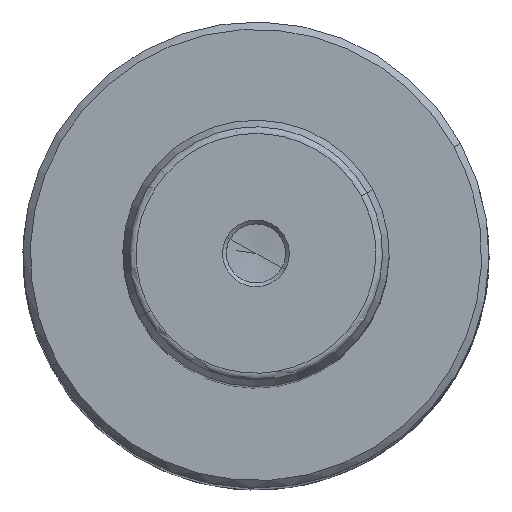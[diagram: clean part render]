
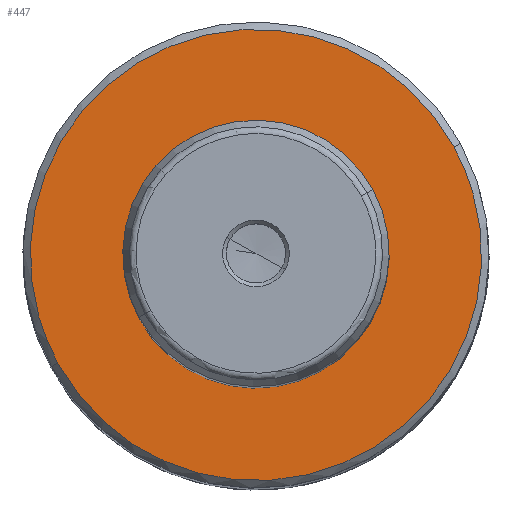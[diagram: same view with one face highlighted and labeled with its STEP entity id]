
A CAD part, top view. The second image highlights one B-rep face of the part: STEP entity #447.
In plain terms, the highlighted planar face has unit normal (0, 0, 1).
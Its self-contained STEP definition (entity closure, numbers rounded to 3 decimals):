
#402 = VERTEX_POINT('',#403);
#403 = CARTESIAN_POINT('',(15.796,8.63,168.));
#411 = VERTEX_POINT('',#412);
#412 = CARTESIAN_POINT('',(-15.796,-8.63,168.));
#418 = EDGE_CURVE('',#411,#402,#419,.T.);
#419 = CIRCLE('',#420,18.);
#420 = AXIS2_PLACEMENT_3D('',#421,#422,#423);
#421 = CARTESIAN_POINT('',(0.,0.,168.));
#422 = DIRECTION('',(0.,0.,1.));
#423 = DIRECTION('',(1.,0.,0.));
#436 = EDGE_CURVE('',#402,#411,#437,.T.);
#437 = CIRCLE('',#438,18.);
#438 = AXIS2_PLACEMENT_3D('',#439,#440,#441);
#439 = CARTESIAN_POINT('',(0.,0.,168.));
#440 = DIRECTION('',(0.,0.,1.));
#441 = DIRECTION('',(1.,0.,0.));
#447 = ADVANCED_FACE('',(#448,#508),#512,.T.);
#448 = FACE_BOUND('',#449,.T.);
#449 = EDGE_LOOP('',(#450,#481));
#450 = ORIENTED_EDGE('',*,*,#451,.T.);
#451 = EDGE_CURVE('',#452,#454,#456,.T.);
#452 = VERTEX_POINT('',#453);
#453 = CARTESIAN_POINT('',(-26.766,-14.622,168.));
#454 = VERTEX_POINT('',#455);
#455 = CARTESIAN_POINT('',(26.766,14.622,168.));
#456 = B_SPLINE_CURVE_WITH_KNOTS('',5,(#457,#458,#459,#460,#461,#462,
    #463,#464,#465,#466,#467,#468,#469,#470,#471,#472,#473,#474,#475,
    #476,#477,#478,#479,#480),.UNSPECIFIED.,.F.,.F.,(6,3,3,3,3,3,3,6),(
    0.,21.044,42.088,63.132,84.176,
    105.22,126.264,135.507),.UNSPECIFIED.);
#457 = CARTESIAN_POINT('',(-26.766,-14.622,168.));
#458 = CARTESIAN_POINT('',(-25.339,-17.234,168.));
#459 = CARTESIAN_POINT('',(-23.594,-19.672,168.));
#460 = CARTESIAN_POINT('',(-21.558,-21.884,168.));
#461 = CARTESIAN_POINT('',(-16.989,-25.766,168.));
#462 = CARTESIAN_POINT('',(-11.62,-28.437,168.));
#463 = CARTESIAN_POINT('',(-8.785,-29.436,168.));
#464 = CARTESIAN_POINT('',(-2.928,-30.724,168.));
#465 = CARTESIAN_POINT('',(3.066,-30.566,168.));
#466 = CARTESIAN_POINT('',(6.039,-30.12,168.));
#467 = CARTESIAN_POINT('',(11.815,-28.512,168.));
#468 = CARTESIAN_POINT('',(17.036,-25.562,168.));
#469 = CARTESIAN_POINT('',(19.453,-23.775,168.));
#470 = CARTESIAN_POINT('',(23.802,-19.647,168.));
#471 = CARTESIAN_POINT('',(27.031,-14.594,168.));
#472 = CARTESIAN_POINT('',(28.328,-11.882,168.));
#473 = CARTESIAN_POINT('',(30.234,-6.197,168.));
#474 = CARTESIAN_POINT('',(30.718,-0.22,168.));
#475 = CARTESIAN_POINT('',(30.593,2.783,168.));
#476 = CARTESIAN_POINT('',(29.887,7.04,168.));
#477 = CARTESIAN_POINT('',(28.459,11.085,168.));
#478 = CARTESIAN_POINT('',(27.958,12.295,168.));
#479 = CARTESIAN_POINT('',(27.393,13.475,168.));
#480 = CARTESIAN_POINT('',(26.766,14.622,168.));
#481 = ORIENTED_EDGE('',*,*,#482,.T.);
#482 = EDGE_CURVE('',#454,#452,#483,.T.);
#483 = B_SPLINE_CURVE_WITH_KNOTS('',5,(#484,#485,#486,#487,#488,#489,
    #490,#491,#492,#493,#494,#495,#496,#497,#498,#499,#500,#501,#502,
    #503,#504,#505,#506,#507),.UNSPECIFIED.,.F.,.F.,(6,3,3,3,3,3,3,6),(
    0.,21.044,42.088,63.132,84.176,
    105.22,126.264,135.507),.UNSPECIFIED.);
#484 = CARTESIAN_POINT('',(26.766,14.622,168.));
#485 = CARTESIAN_POINT('',(25.339,17.234,168.));
#486 = CARTESIAN_POINT('',(23.594,19.672,168.));
#487 = CARTESIAN_POINT('',(21.558,21.884,168.));
#488 = CARTESIAN_POINT('',(16.989,25.766,168.));
#489 = CARTESIAN_POINT('',(11.62,28.437,168.));
#490 = CARTESIAN_POINT('',(8.785,29.436,168.));
#491 = CARTESIAN_POINT('',(2.928,30.724,168.));
#492 = CARTESIAN_POINT('',(-3.066,30.566,168.));
#493 = CARTESIAN_POINT('',(-6.039,30.12,168.));
#494 = CARTESIAN_POINT('',(-11.815,28.512,168.));
#495 = CARTESIAN_POINT('',(-17.036,25.562,168.));
#496 = CARTESIAN_POINT('',(-19.453,23.775,168.));
#497 = CARTESIAN_POINT('',(-23.802,19.647,168.));
#498 = CARTESIAN_POINT('',(-27.031,14.594,168.));
#499 = CARTESIAN_POINT('',(-28.328,11.882,168.));
#500 = CARTESIAN_POINT('',(-30.234,6.197,168.));
#501 = CARTESIAN_POINT('',(-30.718,0.22,168.));
#502 = CARTESIAN_POINT('',(-30.593,-2.783,168.));
#503 = CARTESIAN_POINT('',(-29.887,-7.04,168.));
#504 = CARTESIAN_POINT('',(-28.459,-11.085,168.));
#505 = CARTESIAN_POINT('',(-27.958,-12.295,168.));
#506 = CARTESIAN_POINT('',(-27.393,-13.475,168.));
#507 = CARTESIAN_POINT('',(-26.766,-14.622,168.));
#508 = FACE_BOUND('',#509,.T.);
#509 = EDGE_LOOP('',(#510,#511));
#510 = ORIENTED_EDGE('',*,*,#436,.F.);
#511 = ORIENTED_EDGE('',*,*,#418,.F.);
#512 = PLANE('',#513);
#513 = AXIS2_PLACEMENT_3D('',#514,#515,#516);
#514 = CARTESIAN_POINT('',(30.5,0.,168.));
#515 = DIRECTION('',(0.,0.,1.));
#516 = DIRECTION('',(1.,0.,0.));
